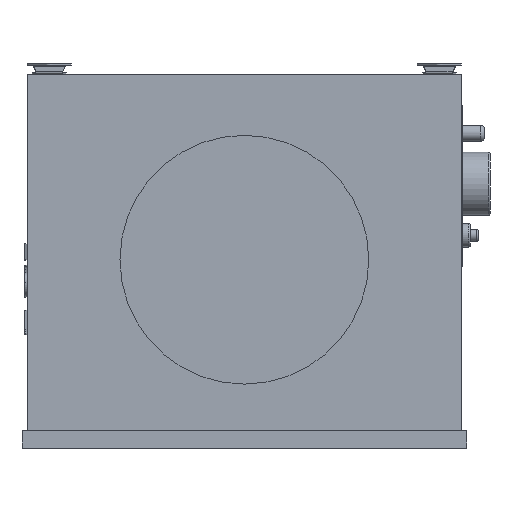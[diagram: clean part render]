
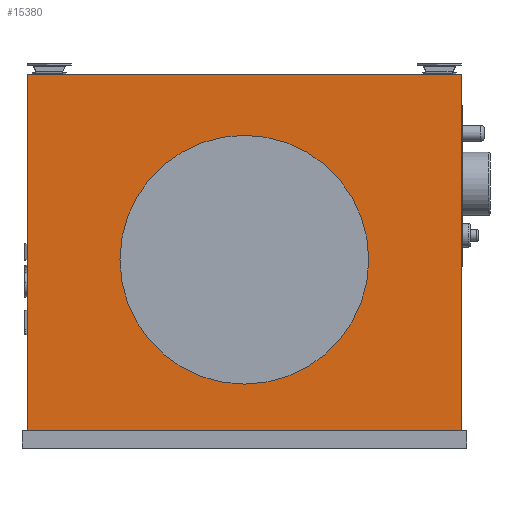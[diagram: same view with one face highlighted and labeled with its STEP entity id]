
A CAD part, front view. The second image highlights one B-rep face of the part: STEP entity #15380.
In plain terms, the highlighted planar face has unit normal (0, -1, 0).
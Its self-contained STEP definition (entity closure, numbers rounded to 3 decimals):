
#174=CIRCLE('',#15978,157.5);
#318=FACE_BOUND('',#2373,.T.);
#1507=FACE_OUTER_BOUND('',#2372,.T.);
#2372=EDGE_LOOP('',(#13948,#13949,#13950,#13951));
#2373=EDGE_LOOP('',(#13952));
#3430=LINE('',#27274,#4752);
#3693=LINE('',#32052,#5015);
#3694=LINE('',#32054,#5016);
#3695=LINE('',#32055,#5017);
#4752=VECTOR('',#17564,10.);
#5015=VECTOR('',#18471,10.);
#5016=VECTOR('',#18474,10.);
#5017=VECTOR('',#18475,10.);
#6974=VERTEX_POINT('',#27270);
#6976=VERTEX_POINT('',#27273);
#7264=VERTEX_POINT('',#32023);
#7272=VERTEX_POINT('',#32048);
#7273=VERTEX_POINT('',#32050);
#9056=EDGE_CURVE('',#6974,#6976,#3430,.T.);
#9499=EDGE_CURVE('',#7264,#7264,#174,.T.);
#9512=EDGE_CURVE('',#7272,#7273,#3693,.T.);
#9513=EDGE_CURVE('',#7272,#6974,#3694,.T.);
#9514=EDGE_CURVE('',#6976,#7273,#3695,.T.);
#13948=ORIENTED_EDGE('',*,*,#9513,.F.);
#13949=ORIENTED_EDGE('',*,*,#9512,.T.);
#13950=ORIENTED_EDGE('',*,*,#9514,.F.);
#13951=ORIENTED_EDGE('',*,*,#9056,.F.);
#13952=ORIENTED_EDGE('',*,*,#9499,.T.);
#14350=PLANE('',#15990);
#15380=ADVANCED_FACE('',(#1507,#318),#14350,.T.);
#15978=AXIS2_PLACEMENT_3D('',#32024,#18440,#18441);
#15990=AXIS2_PLACEMENT_3D('',#32053,#18472,#18473);
#17564=DIRECTION('',(0.,0.,1.));
#18440=DIRECTION('center_axis',(0.,1.,0.));
#18441=DIRECTION('ref_axis',(1.,0.,0.));
#18471=DIRECTION('',(0.,0.,1.));
#18472=DIRECTION('center_axis',(0.,-1.,0.));
#18473=DIRECTION('ref_axis',(1.,0.,0.));
#18474=DIRECTION('',(-1.,0.,0.));
#18475=DIRECTION('',(1.,0.,0.));
#27270=CARTESIAN_POINT('',(-271.825,-250.05,-214.75));
#27273=CARTESIAN_POINT('',(-271.825,-250.05,236.75));
#27274=CARTESIAN_POINT('',(-271.825,-250.05,-214.75));
#32023=CARTESIAN_POINT('',(-154.325,-250.05,1.75));
#32024=CARTESIAN_POINT('Origin',(3.175,-250.05,1.75));
#32048=CARTESIAN_POINT('',(278.175,-250.05,-214.75));
#32050=CARTESIAN_POINT('',(278.175,-250.05,236.75));
#32052=CARTESIAN_POINT('',(278.175,-250.05,-214.75));
#32053=CARTESIAN_POINT('Origin',(-271.825,-250.05,-214.75));
#32054=CARTESIAN_POINT('',(-134.325,-250.05,-214.75));
#32055=CARTESIAN_POINT('',(-271.825,-250.05,236.75));
